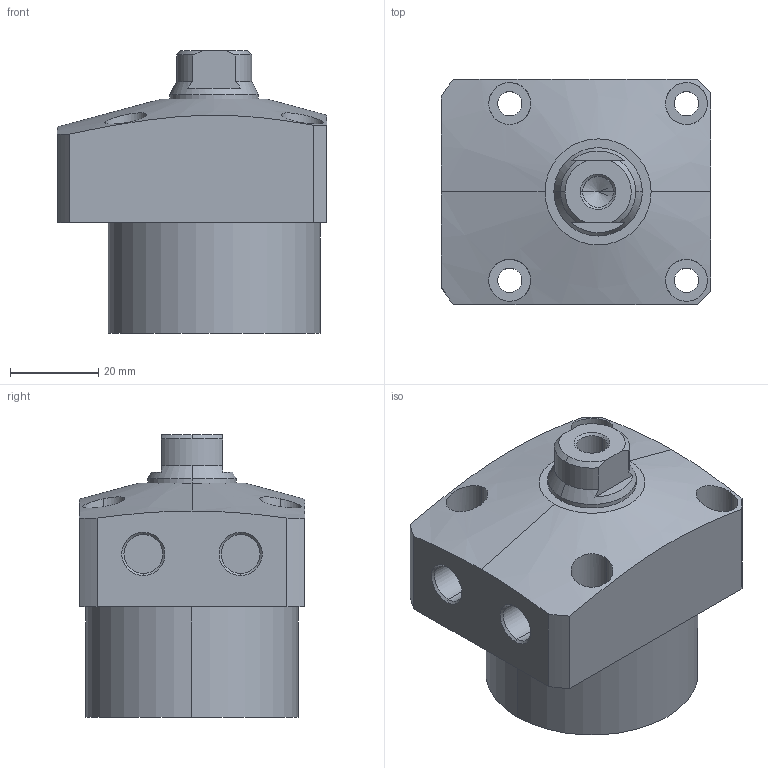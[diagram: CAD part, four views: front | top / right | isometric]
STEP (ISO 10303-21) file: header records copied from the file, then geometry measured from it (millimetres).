
FILE_DESCRIPTION (( 'STEP AP203' ), '1' );
FILE_NAME ('CLL-0480-CA-0£¨1-14£©.STEP', '2017-05-09T02:10:14', ( '' ), ( '' ), 'SwSTEP 2.0', 'SolidWorks 2015', '' );
FILE_SCHEMA (( 'CONFIG_CONTROL_DESIGN' ));
Length unit declared in the file: millimetre
Products named in the file (1): CLL-0480-CA-0（1-14）
Bounding box: 61 x 51 x 64 mm (x, y, z)
Volume: 119843.7 mm3; surface area: 18334.7 mm2
Topology: 1 solids, 1 shells, 72 faces, 169 edges, 108 vertices
Faces by surface type: cylinder 35, plane 22, cone 15
Entity records: 2479 total; most frequent: CARTESIAN_POINT 714, DIRECTION 366, ORIENTED_EDGE 334, EDGE_CURVE 167, AXIS2_PLACEMENT_3D 150, VERTEX_POINT 108, EDGE_LOOP 91, CIRCLE 77
